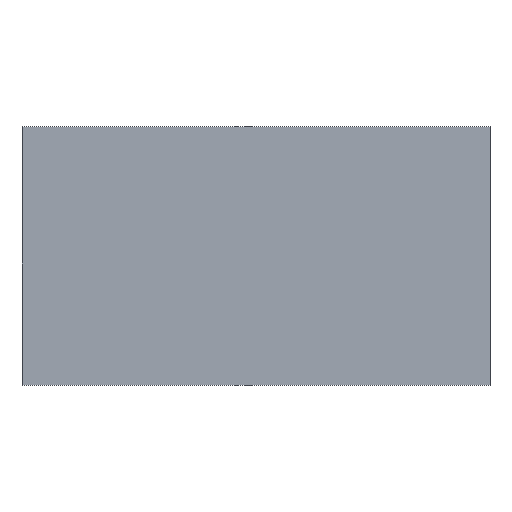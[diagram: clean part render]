
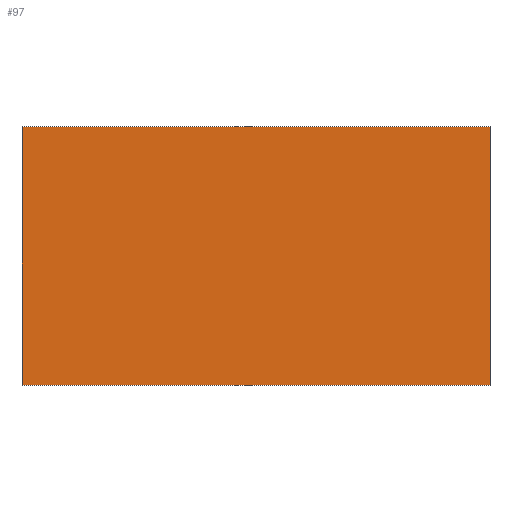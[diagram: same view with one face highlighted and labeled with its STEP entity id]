
A CAD part, top view. The second image highlights one B-rep face of the part: STEP entity #97.
In plain terms, the highlighted planar face has unit normal (0, 0, 1).
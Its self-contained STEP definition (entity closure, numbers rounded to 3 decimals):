
#11 = VECTOR ( 'NONE', #186, 1000. ) ;
#14 = CARTESIAN_POINT ( 'NONE',  ( 0., 0., 0. ) ) ;
#19 = DIRECTION ( 'NONE',  ( -1., 0., 0. ) ) ;
#22 = LINE ( 'NONE', #206, #59 ) ;
#29 = ORIENTED_EDGE ( 'NONE', *, *, #116, .T. ) ;
#30 = VECTOR ( 'NONE', #198, 1000. ) ;
#32 = VERTEX_POINT ( 'NONE', #162 ) ;
#42 = DIRECTION ( 'NONE',  ( 0., 0., 1. ) ) ;
#56 = VECTOR ( 'NONE', #214, 1000. ) ;
#58 = EDGE_LOOP ( 'NONE', ( #225, #29, #161, #194 ) ) ;
#59 = VECTOR ( 'NONE', #19, 1000. ) ;
#71 = EDGE_CURVE ( 'NONE', #215, #91, #146, .T. ) ;
#73 = FACE_OUTER_BOUND ( 'NONE', #58, .T. ) ;
#83 = EDGE_CURVE ( 'NONE', #144, #32, #128, .T. ) ;
#91 = VERTEX_POINT ( 'NONE', #113 ) ;
#97 = ADVANCED_FACE ( 'NONE', ( #73 ), #149, .T. ) ;
#103 = LINE ( 'NONE', #164, #11 ) ;
#113 = CARTESIAN_POINT ( 'NONE',  ( 0., 1800., 0. ) ) ;
#116 = EDGE_CURVE ( 'NONE', #91, #144, #22, .T. ) ;
#128 = LINE ( 'NONE', #200, #30 ) ;
#132 = CARTESIAN_POINT ( 'NONE',  ( 0., 0., 0. ) ) ;
#144 = VERTEX_POINT ( 'NONE', #237 ) ;
#146 = LINE ( 'NONE', #14, #56 ) ;
#149 = PLANE ( 'NONE',  #160 ) ;
#151 = DIRECTION ( 'NONE',  ( 1., 0., 0. ) ) ;
#160 = AXIS2_PLACEMENT_3D ( 'NONE', #132, #42, #151 ) ;
#161 = ORIENTED_EDGE ( 'NONE', *, *, #83, .T. ) ;
#162 = CARTESIAN_POINT ( 'NONE',  ( -3260., 0., 0. ) ) ;
#164 = CARTESIAN_POINT ( 'NONE',  ( 0., 0., 0. ) ) ;
#168 = CARTESIAN_POINT ( 'NONE',  ( 0., 0., 0. ) ) ;
#186 = DIRECTION ( 'NONE',  ( 1., 0., 0. ) ) ;
#194 = ORIENTED_EDGE ( 'NONE', *, *, #201, .T. ) ;
#198 = DIRECTION ( 'NONE',  ( 0., -1., 0. ) ) ;
#200 = CARTESIAN_POINT ( 'NONE',  ( -3260., 0., 0. ) ) ;
#201 = EDGE_CURVE ( 'NONE', #32, #215, #103, .T. ) ;
#206 = CARTESIAN_POINT ( 'NONE',  ( 0., 1800., 0. ) ) ;
#214 = DIRECTION ( 'NONE',  ( 0., 1., 0. ) ) ;
#215 = VERTEX_POINT ( 'NONE', #168 ) ;
#225 = ORIENTED_EDGE ( 'NONE', *, *, #71, .T. ) ;
#237 = CARTESIAN_POINT ( 'NONE',  ( -3260., 1800., 0. ) ) ;
